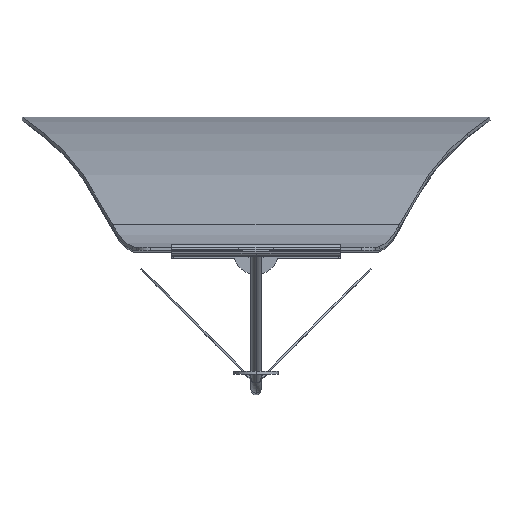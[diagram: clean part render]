
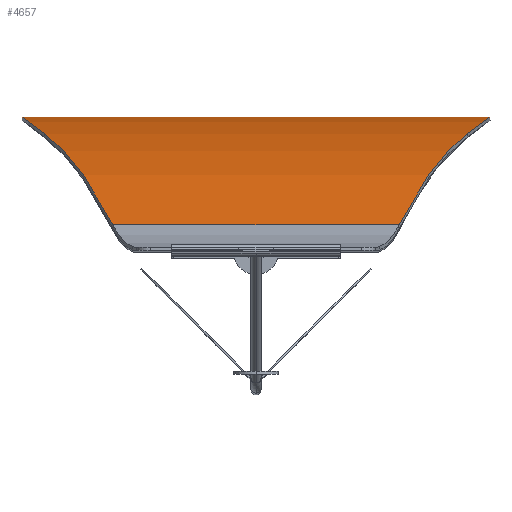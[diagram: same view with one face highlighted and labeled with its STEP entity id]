
A CAD part, top view. The second image highlights one B-rep face of the part: STEP entity #4657.
In plain terms, the highlighted cylindrical face has radius 585.406 mm (diameter 1170.81 mm), a partial arc.
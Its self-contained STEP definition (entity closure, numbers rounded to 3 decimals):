
#136 = CARTESIAN_POINT ( 'NONE',  ( 111.1, 58.936, 162.935 ) ) ;
#158 = VERTEX_POINT ( 'NONE', #4966 ) ;
#212 = CARTESIAN_POINT ( 'NONE',  ( -137.447, 78.396, -36.519 ) ) ;
#222 = CARTESIAN_POINT ( 'NONE',  ( 84.846, 15.179, 266.307 ) ) ;
#242 = EDGE_CURVE ( 'NONE', #158, #4380, #2643, .T. ) ;
#328 = CARTESIAN_POINT ( 'NONE',  ( -97.573, 40.777, 216.196 ) ) ;
#346 = CARTESIAN_POINT ( 'NONE',  ( -111.1, 58.936, -162.935 ) ) ;
#360 = CARTESIAN_POINT ( 'NONE',  ( -84.846, 15.179, -266.307 ) ) ;
#369 = CARTESIAN_POINT ( 'NONE',  ( 129.595, 72.556, 90.111 ) ) ;
#375 = ORIENTED_EDGE ( 'NONE', *, *, #2722, .F. ) ;
#412 = VERTEX_POINT ( 'NONE', #3994 ) ;
#560 = ORIENTED_EDGE ( 'NONE', *, *, #3000, .F. ) ;
#614 = CARTESIAN_POINT ( 'NONE',  ( -129.595, 72.556, 90.111 ) ) ;
#677 = VERTEX_POINT ( 'NONE', #222 ) ;
#748 = CARTESIAN_POINT ( 'NONE',  ( 125.147, 69.281, 107.623 ) ) ;
#915 = CARTESIAN_POINT ( 'NONE',  ( 129.595, 72.556, -90.111 ) ) ;
#1066 =( BOUNDED_CURVE ( )  B_SPLINE_CURVE ( 3, ( #1905, #328, #4610, #3076 ),
 .UNSPECIFIED., .F., .T. ) 
 B_SPLINE_CURVE_WITH_KNOTS ( ( 4, 4 ),
 ( 4.24, 4.527 ),
 .UNSPECIFIED. ) 
 CURVE ( )  GEOMETRIC_REPRESENTATION_ITEM ( )  RATIONAL_B_SPLINE_CURVE ( ( 1., 0.993, 0.993, 1. ) ) 
 REPRESENTATION_ITEM ( '' )  );
#1132 = CARTESIAN_POINT ( 'NONE',  ( 138.6, 79.259, -18.372 ) ) ;
#1310 = VERTEX_POINT ( 'NONE', #3491 ) ;
#1513 = VERTEX_POINT ( 'NONE', #2614 ) ;
#1534 = ORIENTED_EDGE ( 'NONE', *, *, #242, .T. ) ;
#1550 = EDGE_CURVE ( 'NONE', #3514, #158, #4888, .T. ) ;
#1737 = CARTESIAN_POINT ( 'NONE',  ( -138.6, 79.259, -18.372 ) ) ;
#1796 = CARTESIAN_POINT ( 'NONE',  ( -129.595, 72.556, -90.111 ) ) ;
#1866 = CARTESIAN_POINT ( 'NONE',  ( -125.147, 69.281, -107.623 ) ) ;
#1905 = CARTESIAN_POINT ( 'NONE',  ( -84.846, 15.179, 266.307 ) ) ;
#1957 = B_SPLINE_CURVE_WITH_KNOTS ( 'NONE', 3,
 ( #4543, #915, #2270, #4236, #1132, #2320, #3860, #2707, #369, #748 ),
 .UNSPECIFIED., .F., .F.,
 ( 4, 2, 2, 2, 4 ),
 ( 0., 0.054, 0.109, 0.163, 0.218 ),
 .UNSPECIFIED. ) ;
#1992 =( BOUNDED_CURVE ( )  B_SPLINE_CURVE ( 3, ( #2053, #2033, #136, #2846 ),
 .UNSPECIFIED., .F., .T. ) 
 B_SPLINE_CURVE_WITH_KNOTS ( ( 4, 4 ),
 ( 1.099, 1.386 ),
 .UNSPECIFIED. ) 
 CURVE ( )  GEOMETRIC_REPRESENTATION_ITEM ( )  RATIONAL_B_SPLINE_CURVE ( ( 1., 0.993, 0.993, 1. ) ) 
 REPRESENTATION_ITEM ( '' )  );
#2016 = ORIENTED_EDGE ( 'NONE', *, *, #2037, .T. ) ;
#2033 = CARTESIAN_POINT ( 'NONE',  ( 97.573, 40.777, 216.196 ) ) ;
#2037 = EDGE_CURVE ( 'NONE', #677, #1513, #1992, .T. ) ;
#2053 = CARTESIAN_POINT ( 'NONE',  ( 84.846, 15.179, 266.307 ) ) ;
#2064 = CARTESIAN_POINT ( 'NONE',  ( -125.147, 69.281, 107.623 ) ) ;
#2154 = CARTESIAN_POINT ( 'NONE',  ( -132.944, 75.045, -72.389 ) ) ;
#2189 = CARTESIAN_POINT ( 'NONE',  ( -125.147, 69.281, -107.623 ) ) ;
#2233 = ORIENTED_EDGE ( 'NONE', *, *, #3191, .T. ) ;
#2260 = CARTESIAN_POINT ( 'NONE',  ( 84.846, 15.179, -266.307 ) ) ;
#2270 = CARTESIAN_POINT ( 'NONE',  ( 132.944, 75.045, -72.389 ) ) ;
#2278 = CARTESIAN_POINT ( 'NONE',  ( 97.573, 40.777, -216.196 ) ) ;
#2299 = CARTESIAN_POINT ( 'NONE',  ( 125.147, 69.281, -107.623 ) ) ;
#2320 = CARTESIAN_POINT ( 'NONE',  ( 138.6, 79.259, 18.372 ) ) ;
#2349 =( BOUNDED_CURVE ( )  B_SPLINE_CURVE ( 3, ( #360, #3845, #346, #1866 ),
 .UNSPECIFIED., .F., .F. ) 
 B_SPLINE_CURVE_WITH_KNOTS ( ( 4, 4 ),
 ( 4.24, 4.527 ),
 .UNSPECIFIED. ) 
 CURVE ( )  GEOMETRIC_REPRESENTATION_ITEM ( )  RATIONAL_B_SPLINE_CURVE ( ( 1., 0.993, 0.993, 1. ) ) 
 REPRESENTATION_ITEM ( '' )  );
#2432 = ORIENTED_EDGE ( 'NONE', *, *, #2593, .F. ) ;
#2433 = ORIENTED_EDGE ( 'NONE', *, *, #1550, .T. ) ;
#2535 = CARTESIAN_POINT ( 'NONE',  ( -137.447, 78.396, 36.519 ) ) ;
#2593 = EDGE_CURVE ( 'NONE', #3514, #1513, #1957, .T. ) ;
#2614 = CARTESIAN_POINT ( 'NONE',  ( 125.147, 69.281, 107.623 ) ) ;
#2643 = LINE ( 'NONE', #3919, #4576 ) ;
#2707 = CARTESIAN_POINT ( 'NONE',  ( 132.944, 75.045, 72.389 ) ) ;
#2709 = B_SPLINE_CURVE_WITH_KNOTS ( 'NONE', 3,
 ( #2189, #1796, #2154, #212, #1737, #3310, #2535, #3705, #614, #2923 ),
 .UNSPECIFIED., .F., .F.,
 ( 4, 2, 2, 2, 4 ),
 ( -0.109, -0.054, 0., 0.054, 0.109 ),
 .UNSPECIFIED. ) ;
#2722 = EDGE_CURVE ( 'NONE', #677, #412, #4078, .T. ) ;
#2820 = ORIENTED_EDGE ( 'NONE', *, *, #4364, .T. ) ;
#2846 = CARTESIAN_POINT ( 'NONE',  ( 125.147, 69.281, 107.623 ) ) ;
#2923 = CARTESIAN_POINT ( 'NONE',  ( -125.147, 69.281, 107.623 ) ) ;
#3000 = EDGE_CURVE ( 'NONE', #412, #3792, #1066, .T. ) ;
#3076 = CARTESIAN_POINT ( 'NONE',  ( -125.147, 69.281, 107.623 ) ) ;
#3191 = EDGE_CURVE ( 'NONE', #4380, #1310, #2349, .T. ) ;
#3310 = CARTESIAN_POINT ( 'NONE',  ( -138.6, 79.259, 18.372 ) ) ;
#3330 = CARTESIAN_POINT ( 'NONE',  ( 151.2, 15.179, 266.307 ) ) ;
#3491 = CARTESIAN_POINT ( 'NONE',  ( -125.147, 69.281, -107.623 ) ) ;
#3514 = VERTEX_POINT ( 'NONE', #4288 ) ;
#3605 = VECTOR ( 'NONE', #4488, 1000. ) ;
#3705 = CARTESIAN_POINT ( 'NONE',  ( -132.944, 75.045, 72.389 ) ) ;
#3792 = VERTEX_POINT ( 'NONE', #2064 ) ;
#3845 = CARTESIAN_POINT ( 'NONE',  ( -97.573, 40.777, -216.196 ) ) ;
#3860 = CARTESIAN_POINT ( 'NONE',  ( 137.447, 78.396, 36.519 ) ) ;
#3884 = DIRECTION ( 'NONE',  ( -1., 0., 0. ) ) ;
#3919 = CARTESIAN_POINT ( 'NONE',  ( 151.2, 15.179, -266.307 ) ) ;
#3994 = CARTESIAN_POINT ( 'NONE',  ( -84.846, 15.179, 266.307 ) ) ;
#4078 = LINE ( 'NONE', #3330, #3605 ) ;
#4122 = CYLINDRICAL_SURFACE ( 'NONE', #4494, 585.406 ) ;
#4156 = EDGE_LOOP ( 'NONE', ( #1534, #2233, #2820, #560, #375, #2016, #2432, #2433 ) ) ;
#4236 = CARTESIAN_POINT ( 'NONE',  ( 137.447, 78.396, -36.519 ) ) ;
#4269 = CARTESIAN_POINT ( 'NONE',  ( 151.2, -506.147, 0. ) ) ;
#4288 = CARTESIAN_POINT ( 'NONE',  ( 125.147, 69.281, -107.623 ) ) ;
#4364 = EDGE_CURVE ( 'NONE', #1310, #3792, #2709, .T. ) ;
#4380 = VERTEX_POINT ( 'NONE', #4840 ) ;
#4488 = DIRECTION ( 'NONE',  ( -1., 0., 0. ) ) ;
#4494 = AXIS2_PLACEMENT_3D ( 'NONE', #4269, #3884, #4624 ) ;
#4543 = CARTESIAN_POINT ( 'NONE',  ( 125.147, 69.281, -107.623 ) ) ;
#4576 = VECTOR ( 'NONE', #4679, 1000. ) ;
#4610 = CARTESIAN_POINT ( 'NONE',  ( -111.1, 58.936, 162.935 ) ) ;
#4624 = DIRECTION ( 'NONE',  ( 0., 0., 1. ) ) ;
#4657 = ADVANCED_FACE ( 'NONE', ( #4796 ), #4122, .T. ) ;
#4679 = DIRECTION ( 'NONE',  ( -1., 0., 0. ) ) ;
#4796 = FACE_OUTER_BOUND ( 'NONE', #4156, .T. ) ;
#4840 = CARTESIAN_POINT ( 'NONE',  ( -84.846, 15.179, -266.307 ) ) ;
#4888 =( BOUNDED_CURVE ( )  B_SPLINE_CURVE ( 3, ( #2299, #4981, #2278, #2260 ),
 .UNSPECIFIED., .F., .T. ) 
 B_SPLINE_CURVE_WITH_KNOTS ( ( 4, 4 ),
 ( 4.897, 5.185 ),
 .UNSPECIFIED. ) 
 CURVE ( )  GEOMETRIC_REPRESENTATION_ITEM ( )  RATIONAL_B_SPLINE_CURVE ( ( 1., 0.993, 0.993, 1. ) ) 
 REPRESENTATION_ITEM ( '' )  );
#4966 = CARTESIAN_POINT ( 'NONE',  ( 84.846, 15.179, -266.307 ) ) ;
#4981 = CARTESIAN_POINT ( 'NONE',  ( 111.1, 58.936, -162.935 ) ) ;
